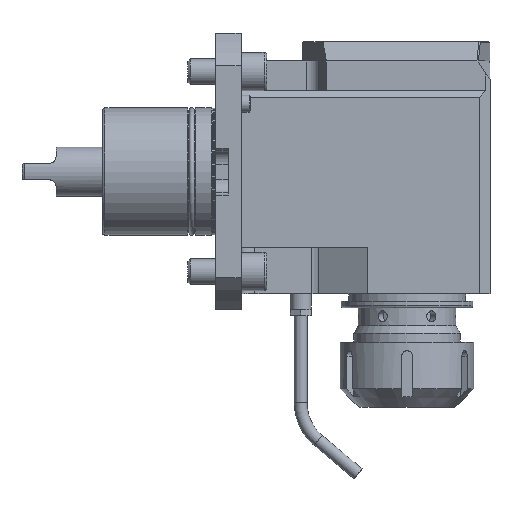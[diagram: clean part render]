
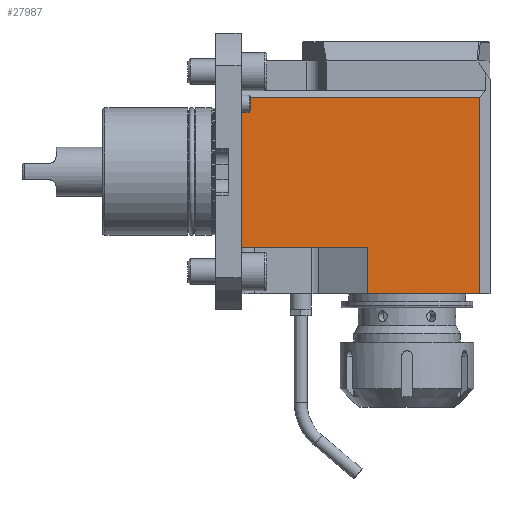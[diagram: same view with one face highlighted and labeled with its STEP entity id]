
A CAD part, front view. The second image highlights one B-rep face of the part: STEP entity #27987.
In plain terms, the highlighted planar face has unit normal (0, -1, 0).
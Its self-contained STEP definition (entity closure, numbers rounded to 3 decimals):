
#10264=VECTOR('',#16596,1.);
#10285=VECTOR('',#16665,1.);
#10293=VECTOR('',#16687,1.);
#10294=VECTOR('',#16688,1.);
#10295=VECTOR('',#16689,1.);
#10296=VECTOR('',#16690,1.);
#10714=LINE('',#18683,#10264);
#10735=LINE('',#18764,#10285);
#10743=LINE('',#18790,#10293);
#10744=LINE('',#18792,#10294);
#10745=LINE('',#18793,#10295);
#10746=LINE('',#18794,#10296);
#11136=PLANE('',#27229);
#11848=ORIENTED_EDGE('',*,*,#14321,.F.);
#11849=ORIENTED_EDGE('',*,*,#14270,.T.);
#11850=ORIENTED_EDGE('',*,*,#14322,.F.);
#11851=ORIENTED_EDGE('',*,*,#14323,.F.);
#11852=ORIENTED_EDGE('',*,*,#14307,.T.);
#11853=ORIENTED_EDGE('',*,*,#14324,.F.);
#13606=VERTEX_POINT('',#18680);
#13607=VERTEX_POINT('',#18682);
#13642=VERTEX_POINT('',#18762);
#13643=VERTEX_POINT('',#18763);
#13654=VERTEX_POINT('',#18789);
#13655=VERTEX_POINT('',#18791);
#14270=EDGE_CURVE('',#13607,#13606,#10714,.T.);
#14307=EDGE_CURVE('',#13642,#13643,#10735,.T.);
#14321=EDGE_CURVE('',#13607,#13654,#10743,.T.);
#14322=EDGE_CURVE('',#13655,#13606,#10744,.T.);
#14323=EDGE_CURVE('',#13642,#13655,#10745,.T.);
#14324=EDGE_CURVE('',#13654,#13643,#10746,.T.);
#15053=EDGE_LOOP('',(#11848,#11849,#11850,#11851,#11852,#11853));
#15707=FACE_BOUND('',#15053,.T.);
#16596=DIRECTION('',(0.,0.,-70.5));
#16665=DIRECTION('',(52.751,0.,0.));
#16685=DIRECTION('',(0.,-1.,0.));
#16686=DIRECTION('',(-1.,0.,0.));
#16687=DIRECTION('',(112.,0.,0.));
#16688=DIRECTION('',(-59.249,0.,0.));
#16689=DIRECTION('',(0.,0.,22.));
#16690=DIRECTION('',(0.,0.,-92.5));
#18680=CARTESIAN_POINT('',(12.,-39.,-35.5));
#18682=CARTESIAN_POINT('',(12.,-39.,35.));
#18683=CARTESIAN_POINT('',(12.,-39.,35.));
#18762=CARTESIAN_POINT('',(71.249,-39.,-57.5));
#18763=CARTESIAN_POINT('',(124.,-39.,-57.5));
#18764=CARTESIAN_POINT('',(71.249,-39.,-57.5));
#18788=CARTESIAN_POINT('',(12.,-39.,35.));
#18789=CARTESIAN_POINT('',(124.,-39.,35.));
#18790=CARTESIAN_POINT('',(12.,-39.,35.));
#18791=CARTESIAN_POINT('',(71.249,-39.,-35.5));
#18792=CARTESIAN_POINT('',(71.249,-39.,-35.5));
#18793=CARTESIAN_POINT('',(71.249,-39.,-57.5));
#18794=CARTESIAN_POINT('',(124.,-39.,35.));
#27229=AXIS2_PLACEMENT_3D('',#18788,#16685,#16686);
#27987=ADVANCED_FACE('',(#15707),#11136,.T.);
